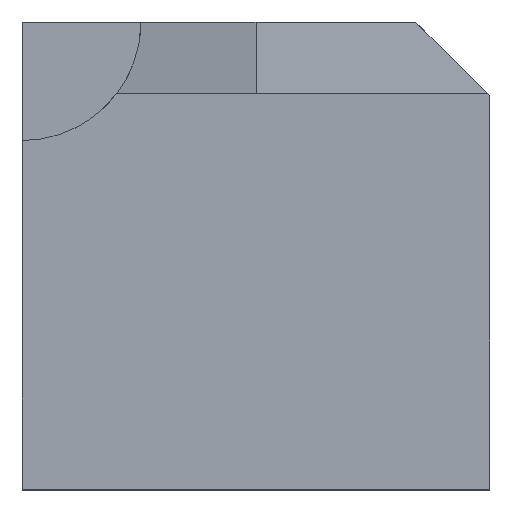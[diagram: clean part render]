
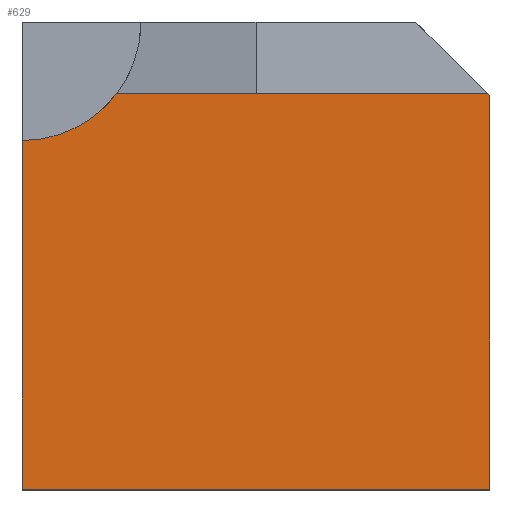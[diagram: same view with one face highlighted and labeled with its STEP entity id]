
A CAD part, top view. The second image highlights one B-rep face of the part: STEP entity #629.
In plain terms, the highlighted planar face has unit normal (0, 0, 1).
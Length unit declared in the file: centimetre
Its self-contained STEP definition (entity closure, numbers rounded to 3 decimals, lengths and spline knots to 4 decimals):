
#5 = CIRCLE ( 'NONE', #281, 253.7483 ) ;
#8 = DIRECTION ( 'NONE',  ( 1., 0., 0. ) ) ;
#68 = DIRECTION ( 'NONE',  ( 0., -1., 0. ) ) ;
#69 = DIRECTION ( 'NONE',  ( 1., 0., 0. ) ) ;
#88 = EDGE_CURVE ( 'NONE', #340, #473, #5, .T. ) ;
#131 = CARTESIAN_POINT ( 'NONE',  ( 0., 1000., 1000. ) ) ;
#138 = CARTESIAN_POINT ( 'NONE',  ( 1000., 0., 1000. ) ) ;
#142 = VERTEX_POINT ( 'NONE', #138 ) ;
#162 = EDGE_CURVE ( 'NONE', #340, #650, #298, .T. ) ;
#170 = VECTOR ( 'NONE', #241, 100. ) ;
#171 = VECTOR ( 'NONE', #684, 100. ) ;
#174 = VERTEX_POINT ( 'NONE', #474 ) ;
#190 = CARTESIAN_POINT ( 'NONE',  ( 0., 0., 1000. ) ) ;
#221 = EDGE_CURVE ( 'NONE', #650, #142, #726, .T. ) ;
#241 = DIRECTION ( 'NONE',  ( 1., 0., 0. ) ) ;
#248 = ORIENTED_EDGE ( 'NONE', *, *, #481, .F. ) ;
#281 = AXIS2_PLACEMENT_3D ( 'NONE', #131, #555, #8 ) ;
#296 = EDGE_LOOP ( 'NONE', ( #465, #248, #666, #728, #705, #610 ) ) ;
#298 = LINE ( 'NONE', #541, #406 ) ;
#303 = FACE_OUTER_BOUND ( 'NONE', #296, .T. ) ;
#319 = PLANE ( 'NONE',  #387 ) ;
#324 = DIRECTION ( 'NONE',  ( 1., 0., 0. ) ) ;
#333 = LINE ( 'NONE', #696, #638 ) ;
#340 = VERTEX_POINT ( 'NONE', #394 ) ;
#387 = AXIS2_PLACEMENT_3D ( 'NONE', #723, #679, #69 ) ;
#394 = CARTESIAN_POINT ( 'NONE',  ( 0., 746.2517, 1000. ) ) ;
#406 = VECTOR ( 'NONE', #68, 100. ) ;
#443 = CARTESIAN_POINT ( 'NONE',  ( 921.0389, 921.0389, 1000. ) ) ;
#451 = CARTESIAN_POINT ( 'NONE',  ( 202., 846.4285, 1000. ) ) ;
#457 = EDGE_CURVE ( 'NONE', #174, #496, #507, .T. ) ;
#465 = ORIENTED_EDGE ( 'NONE', *, *, #457, .T. ) ;
#473 = VERTEX_POINT ( 'NONE', #451 ) ;
#474 = CARTESIAN_POINT ( 'NONE',  ( 1000., 842.0777, 1000. ) ) ;
#481 = EDGE_CURVE ( 'NONE', #473, #496, #333, .T. ) ;
#496 = VERTEX_POINT ( 'NONE', #632 ) ;
#506 = CARTESIAN_POINT ( 'NONE',  ( 0., 0., 1000. ) ) ;
#507 = LINE ( 'NONE', #443, #171 ) ;
#523 = CARTESIAN_POINT ( 'NONE',  ( 1000., 1000., 1000. ) ) ;
#541 = CARTESIAN_POINT ( 'NONE',  ( 0., 1000., 1000. ) ) ;
#555 = DIRECTION ( 'NONE',  ( 0., 0., 1. ) ) ;
#577 = LINE ( 'NONE', #523, #701 ) ;
#580 = DIRECTION ( 'NONE',  ( 0., 1., 0. ) ) ;
#610 = ORIENTED_EDGE ( 'NONE', *, *, #764, .T. ) ;
#629 = ADVANCED_FACE ( 'NONE', ( #303 ), #319, .T. ) ;
#632 = CARTESIAN_POINT ( 'NONE',  ( 995.6492, 846.4285, 1000. ) ) ;
#638 = VECTOR ( 'NONE', #324, 100. ) ;
#650 = VERTEX_POINT ( 'NONE', #506 ) ;
#666 = ORIENTED_EDGE ( 'NONE', *, *, #88, .F. ) ;
#679 = DIRECTION ( 'NONE',  ( 0., 0., 1. ) ) ;
#684 = DIRECTION ( 'NONE',  ( -0.707, 0.707, 0. ) ) ;
#696 = CARTESIAN_POINT ( 'NONE',  ( 0., 846.4285, 1000. ) ) ;
#701 = VECTOR ( 'NONE', #580, 100. ) ;
#705 = ORIENTED_EDGE ( 'NONE', *, *, #221, .T. ) ;
#723 = CARTESIAN_POINT ( 'NONE',  ( 0., 0., 1000. ) ) ;
#726 = LINE ( 'NONE', #190, #170 ) ;
#728 = ORIENTED_EDGE ( 'NONE', *, *, #162, .T. ) ;
#764 = EDGE_CURVE ( 'NONE', #142, #174, #577, .T. ) ;
